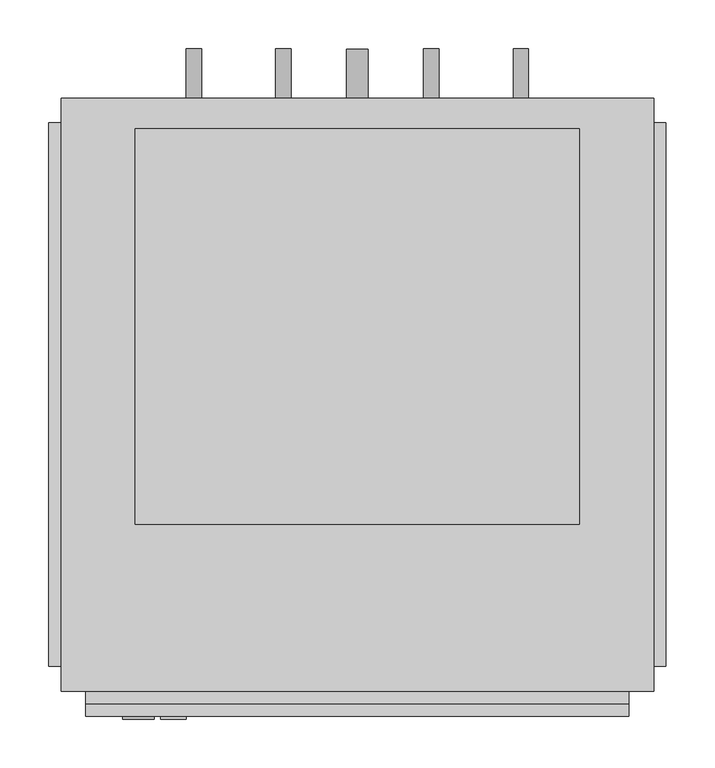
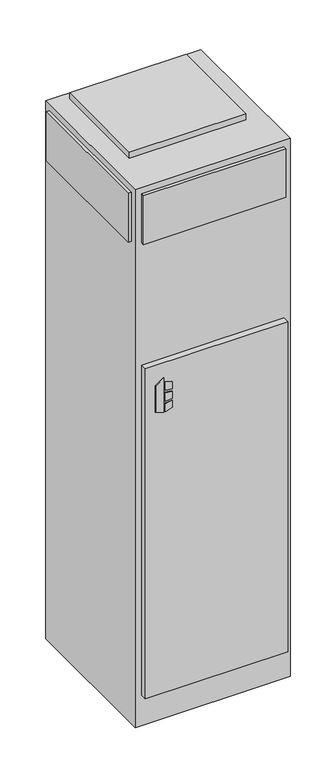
"""IFC4 building model written with IfcOpenShell, lengths in millimetres: proxy geometry, Concealed_Modular_Fan_Coil_Unit_-_MPY_-_IEC_-_4-Pipe_-_NoRisers_2022 : Size 10 - 277v/60Hz/1Ph - 4/1 Coil."""

from ifc_helpers import new_model, si_unit, point, frame, frame_2d, origin, origin_with_axes, place, context, project, spatial, polyline, circle_curve, trimmed, segment, composite_curve, outline, extrude, source, transform, mapped, element, save


def mechanical_equipment_e88e7db6(model_context):
    return source(origin(), model_context, "Body", "SweptSolid", [
        extrude(outline(polyline([(1305.3480703, 215.9), (1295.4, 248.0733866), (1437.5709244, 248.0733866), (1414.5489183, 215.9), (1305.3480703, 215.9)])), frame((0.0, -393.7, 0.0), z_axis=(0.0, 1.0, 0.0), x_axis=(0.0, 0.0, 1.0)), (0.0, 0.0, 1.0), 3.175),
        extrude(outline(polyline([(1384.3473557, 254.8317195), (1381.1449632, 280.9131138), (1410.3738042, 280.9131138), (1418.4382193, 254.8317195), (1384.3473557, 254.8317195)])), frame((0.0, -393.7, 0.0), z_axis=(0.0, 1.0, 0.0), x_axis=(0.0, 0.0, 1.0)), (0.0, 0.0, 1.0), 3.175),
        extrude(outline(polyline([(1332.4838288, 280.9131138), (1328.8183279, 254.8317195), (1295.4, 254.8317195), (1304.0342372, 280.9131138), (1332.4838288, 280.9131138)])), frame((0.0, -393.7, 0.0), z_axis=(0.0, 1.0, 0.0), x_axis=(0.0, 0.0, 1.0)), (0.0, 0.0, 1.0), 3.175),
        extrude(outline(polyline([(1371.7989903, 280.9131138), (1374.0808166, 254.8317195), (1338.1432681, 254.8317195), (1340.8845331, 280.9131138), (1371.7989903, 280.9131138)])), frame((0.0, -393.7, 0.0), z_axis=(0.0, 1.0, 0.0), x_axis=(0.0, 0.0, 1.0)), (0.0, 0.0, 1.0), 3.175),
        extrude(outline(composite_curve([segment(trimmed(circle_curve(frame_2d((990.6, 625.475)), 7.9375), [point((990.6, 617.5375))], [point((990.6, 633.4125))], False, "CARTESIAN"), True, "CONTINUOUS"), segment(trimmed(circle_curve(frame_2d((990.6, 625.475)), 7.9375), [point((990.6, 633.4125))], [point((990.6, 617.5375))], False, "CARTESIAN"), True, "CONTINUOUS")], self_intersect=False)), frame((0.0, 244.475, 0.0), z_axis=(0.0, 1.0, 0.0), x_axis=(0.0, 0.0, 1.0)), (0.0, 0.0, 1.0), 50.8),
        extrude(outline(composite_curve([segment(trimmed(circle_curve(frame_2d((990.6, 533.4)), 7.9375), [point((990.6, 525.4625))], [point((990.6, 541.3375))], False, "CARTESIAN"), True, "CONTINUOUS"), segment(trimmed(circle_curve(frame_2d((990.6, 533.4)), 7.9375), [point((990.6, 541.3375))], [point((990.6, 525.4625))], False, "CARTESIAN"), True, "CONTINUOUS")], self_intersect=False)), frame((0.0, 244.475, 0.0), z_axis=(0.0, 1.0, 0.0), x_axis=(0.0, 0.0, 1.0)), (0.0, 0.0, 1.0), 50.8),
        extrude(outline(composite_curve([segment(trimmed(circle_curve(frame_2d((990.6, 381.0)), 7.9375), [point((990.6, 373.0625))], [point((990.6, 388.9375))], False, "CARTESIAN"), True, "CONTINUOUS"), segment(trimmed(circle_curve(frame_2d((990.6, 381.0)), 7.9375), [point((990.6, 388.9375))], [point((990.6, 373.0625))], False, "CARTESIAN"), True, "CONTINUOUS")], self_intersect=False)), frame((0.0, 244.475, 0.0), z_axis=(0.0, 1.0, 0.0), x_axis=(0.0, 0.0, 1.0)), (0.0, 0.0, 1.0), 50.8),
        extrude(outline(composite_curve([segment(trimmed(circle_curve(frame_2d((990.6, 288.925)), 7.9375), [point((990.6, 280.9875))], [point((990.6, 296.8625))], False, "CARTESIAN"), True, "CONTINUOUS"), segment(trimmed(circle_curve(frame_2d((990.6, 288.925)), 7.9375), [point((990.6, 296.8625))], [point((990.6, 280.9875))], False, "CARTESIAN"), True, "CONTINUOUS")], self_intersect=False)), frame((0.0, 244.475, 0.0), z_axis=(0.0, 1.0, 0.0), x_axis=(0.0, 0.0, 1.0)), (0.0, 0.0, 1.0), 50.8),
        extrude(outline(composite_curve([segment(trimmed(circle_curve(frame_2d((76.2, 457.2)), 11.1125), [point((76.2, 446.0875))], [point((76.2, 468.3125))], False, "CARTESIAN"), True, "CONTINUOUS"), segment(trimmed(circle_curve(frame_2d((76.2, 457.2)), 11.1125), [point((76.2, 468.3125))], [point((76.2, 446.0875))], False, "CARTESIAN"), True, "CONTINUOUS")], self_intersect=False)), frame((0.0, 244.475, 0.0), z_axis=(0.0, 1.0, 0.0), x_axis=(0.0, 0.0, 1.0)), (0.0, 0.0, 1.0), 50.8),
        extrude(outline(polyline([(685.8, 212.725), (685.8, -193.675), (228.6, -193.675), (228.6, 212.725), (685.8, 212.725)])), frame((0.0, 0.0, 2235.2), z_axis=(0.0, 0.0, 1.0), x_axis=(1.0, 0.0, 0.0)), (0.0, 0.0, 1.0), 25.4),
        extrude(outline(polyline([(139.7, -339.725), (139.7, 219.075), (152.4, 219.075), (152.4, -339.725), (139.7, -339.725)])), frame((0.0, 0.0, 2006.6), z_axis=(0.0, 0.0, 1.0), x_axis=(1.0, 0.0, 0.0)), (0.0, 0.0, 1.0), 203.2),
        extrude(outline(polyline([(774.7, 219.075), (774.7, -339.725), (762.0, -339.725), (762.0, 219.075), (774.7, 219.075)])), frame((0.0, 0.0, 2006.6), z_axis=(0.0, 0.0, 1.0), x_axis=(1.0, 0.0, 0.0)), (0.0, 0.0, 1.0), 203.2),
        extrude(outline(polyline([(736.6, -377.825), (177.8, -377.825), (177.8, -365.125), (736.6, -365.125), (736.6, -377.825)])), frame((0.0, 0.0, 2006.6), z_axis=(0.0, 0.0, 1.0), x_axis=(1.0, 0.0, 0.0)), (0.0, 0.0, 1.0), 203.2),
        extrude(outline(polyline([(736.6, -390.525), (177.8, -390.525), (177.8, -365.125), (736.6, -365.125), (736.6, -390.525)])), frame((0.0, 0.0, 127.0), z_axis=(0.0, 0.0, 1.0), x_axis=(1.0, 0.0, 0.0)), (0.0, 0.0, 1.0), 1371.6),
        extrude(outline(polyline([(762.0, 244.475), (762.0, -365.125), (152.4, -365.125), (152.4, 244.475), (762.0, 244.475)])), origin_with_axes(), (0.0, 0.0, 1.0), 2235.2),
    ])


if __name__ == "__main__":
    model = new_model("IFC4")
    model_context = context("Model", 3, world=origin())
    ifc_project = project(units=[si_unit("LENGTHUNIT", "METRE", prefix="MILLI")], contexts=[model_context])
    site = spatial("IfcSite", under=ifc_project)
    building = spatial("IfcBuilding", under=site)
    placement = place(None, origin())
    mechanical_equipment_shape = mechanical_equipment_e88e7db6(model_context)
    element("IfcBuildingElementProxy", 1, Name="Concealed_Modular_Fan_Coil_Unit_-_MPY_-_IEC_-_4-Pipe_-_NoRisers_2022 : Size 10 - 277v/60Hz/1Ph - 4/1 Coil", ObjectType="Concealed_Modular_Fan_Coil_Unit_-_MPY_-_IEC_-_4-Pipe_-_NoRisers_2022 : Size 10 - 277v/60Hz/1Ph - 4/1 Coil", at=placement, inside=building, context=model_context, shape_type="MappedRepresentation", body=[
        mapped(mechanical_equipment_shape, transform((0.0, 0.0, 0.0), x_axis=(1.0, 0.0, 0.0), y_axis=(0.0, 1.0, 0.0), z_axis=(0.0, 0.0, 1.0))),
    ])
    save(model, "model.ifc")
